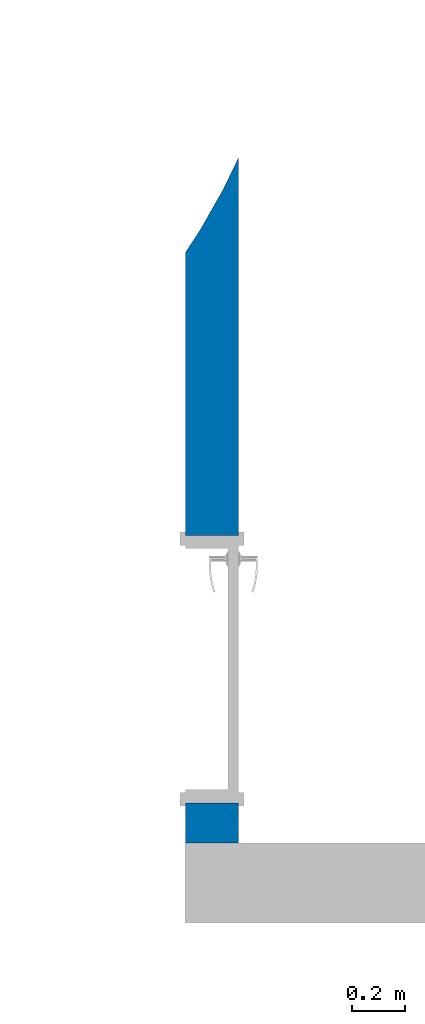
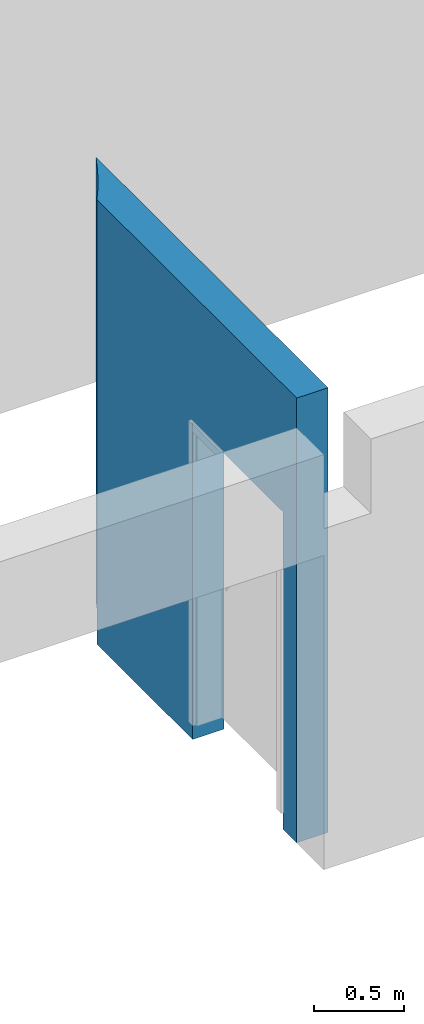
# One storey, part 4 of 6: 1 wall, 1 opening.
"""IFC4 building model written with IfcOpenShell, lengths in millimetres."""

from ifc_helpers import new_model, entity, si_unit, converted_unit, derived_unit, direction, frame, origin_with_axes, place, context, subcontext, project, spatial, polygons, material, constituent, constituent_set, type_object, element, save


model = new_model("IFC4")

# Units and contexts
model_context = context("Model", 3, precision=0.01, world=origin_with_axes(), true_north=direction((0.0, 1.0)))
body_context = subcontext(model_context, "Body", "Model", "MODEL_VIEW")
ifc_project = project(units=[si_unit("LENGTHUNIT", "METRE", prefix="MILLI"), si_unit("AREAUNIT", "SQUARE_METRE"), si_unit("VOLUMEUNIT", "CUBIC_METRE"), converted_unit("PLANEANGLEUNIT", "DEGREE", entity("IfcPlaneAngleMeasure", 0.0174532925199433), si_unit("PLANEANGLEUNIT", "RADIAN"), dimensions=[0, 0, 0, 0, 0, 0, 0]), converted_unit("TIMEUNIT", "Year", entity("IfcTimeMeasure", 31557600.0), si_unit("TIMEUNIT", "SECOND"), dimensions=[0, 0, 1, 0, 0, 0, 0]), si_unit("MASSUNIT", "GRAM", prefix="KILO"), si_unit("THERMODYNAMICTEMPERATUREUNIT", "DEGREE_CELSIUS"), si_unit("LUMINOUSINTENSITYUNIT", "LUMEN"), si_unit("ENERGYUNIT", "JOULE", prefix="MEGA"), derived_unit("THERMALCONDUCTANCEUNIT", [(si_unit("POWERUNIT", "WATT"), 1), (si_unit("LENGTHUNIT", "METRE"), -1), (si_unit("THERMODYNAMICTEMPERATUREUNIT", "KELVIN"), -1)]), derived_unit("SPECIFICHEATCAPACITYUNIT", [(si_unit("ENERGYUNIT", "JOULE"), 1), (si_unit("MASSUNIT", "GRAM", prefix="KILO"), -1), (si_unit("THERMODYNAMICTEMPERATUREUNIT", "KELVIN"), -1)]), derived_unit("MASSDENSITYUNIT", [(si_unit("MASSUNIT", "GRAM", prefix="KILO"), 1), (si_unit("VOLUMEUNIT", "CUBIC_METRE"), -1)])], contexts=[model_context])

# Site, building, storey
site_placement = place(None, origin_with_axes())
site = spatial("IfcSite", under=ifc_project, at=site_placement, Name="Exteriér", CompositionType="ELEMENT")
building_placement = place(site_placement, origin_with_axes())
building = spatial("IfcBuilding", under=site, at=building_placement, Name="Univerzitní lezecké centrum", CompositionType="ELEMENT")
storey_placement = place(building_placement, frame((0.0, 0.0, 6400.0), z_axis=(0.0, 0.0, 1.0), x_axis=(1.0, 0.0, 0.0)))
storey = spatial("IfcBuildingStorey", under=building, at=storey_placement, Name="3.NP", CompositionType="ELEMENT", Elevation=6400.0)

# Wall, opening
ifc_material = material(Name="Beton vyztužený - vnitřní svislé kce")
ifc_constituent = constituent(ifc_material, Name="Beton vyztužený - vnitřní svislé kce")
ifc_constituent_set = constituent_set(constituents=[ifc_constituent], Name="!Vnitřní betonová stěna 200 mm")
wall_type = type_object("IfcWallType", Name="!Vnitřní betonová stěna 200 mm 200", PredefinedType="NOTDEFINED")
wall_placement = place(storey_placement, frame((4699.951161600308, 2610.480756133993, -120.000000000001), z_axis=(0.0, 0.0, 1.0), x_axis=(0.0, -1.0, 0.0)))
wall = element("IfcWall", 1, at=wall_placement, inside=storey, type_object=wall_type, material=ifc_constituent_set, Name="St05", PredefinedType="NOTDEFINED", context=body_context, shape_type="Tessellation", body=[
    polygons([(1460.483303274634, 200.0000000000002, 120.000000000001), (1460.483379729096, 199.9999078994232, 0.4999999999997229), (1460.483379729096, 199.9999078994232, 0.0), (45.87353342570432, 199.9999999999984, 0.0), (45.87353342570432, 199.9999999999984, 3000.000000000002), (2610.48075613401, 199.9999999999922, 3000.000000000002), (2610.48075613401, 199.9999999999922, 0.0), (2460.483379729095, 199.9999078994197, 0.0), (2460.483379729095, 199.9999078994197, 0.4999999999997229), (2460.483303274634, 199.9999999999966, 120.000000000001), (2460.483303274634, 199.9999999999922, 2140.0), (1460.483303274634, 199.9999999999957, 2140.0), (1460.483303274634, 0.0, 120.000000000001), (1460.483379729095, -9.210057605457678e-05, 0.4999999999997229), (1460.483379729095, -9.210057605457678e-05, 0.0), (402.9603332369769, 0.0, 0.0), (313.5362180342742, 58.31581600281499, 0.0), (164.3026651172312, 142.6555059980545, 0.0), (87.16153950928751, 180.0079610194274, 0.0), (87.16153950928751, 180.0079610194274, 3000.000000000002), (313.5362180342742, 58.31581600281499, 3000.000000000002), (402.960333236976, 0.0, 3000.000000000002), (2610.480756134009, 0.0, 3000.000000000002), (164.3026651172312, 142.6555059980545, 3000.000000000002), (2610.480756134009, 0.0, 0.0), (2460.483379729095, -9.210057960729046e-05, 0.0), (2460.483379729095, -9.210057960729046e-05, 0.4999999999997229), (2460.483303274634, 0.0, 120.000000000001), (2460.483303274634, 0.0, 2140.0), (1460.483303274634, 0.0, 2140.0)], [[[1, 2, 3, 4, 5, 6, 7, 8, 9, 10, 11, 12]], [[13, 14, 2, 1]], [[15, 3, 2, 14]], [[4, 3, 15, 16, 17, 18, 19]], [[5, 4, 19, 20]], [[21, 22, 23, 6, 5, 20, 24]], [[6, 23, 25, 7]], [[25, 26, 8, 7]], [[26, 27, 9, 8]], [[10, 9, 27, 28]], [[28, 29, 11, 10]], [[29, 30, 12, 11]], [[30, 13, 1, 12]], [[16, 15, 14, 13, 30, 29, 28, 27, 26, 25, 23, 22]], [[21, 17, 16, 22]], [[24, 18, 17, 21]], [[20, 19, 18, 24]]], closed=True),
])
opening_placement = place(wall_placement, frame((1960.483303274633, 0.0, 120.000000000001), z_axis=(0.0, 0.0, 1.0), x_axis=(1.0, 0.0, 0.0)))
element("IfcOpeningElement", 2, at=opening_placement, cuts=wall, Name="D15", context=body_context, identifier="Reference", shape_type="Tessellation", body=[
    polygons([(-499.9999999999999, 0.0, 0.0), (-499.9999999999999, 0.0, 2020.0), (-499.9999999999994, 199.9999999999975, 2020.0), (-499.9999999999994, 199.9999999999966, 0.0), (500.0, 0.0, 2020.0), (-511.9999999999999, 0.0, 0.0), (-511.9999999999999, 0.0, 2032.0), (512.0, 0.0, 2032.0), (512.0, 0.0, 0.0), (500.0, 0.0, 0.0), (500.0000000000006, 199.9999999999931, 2020.0), (500.0000000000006, 199.9999999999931, 0.0), (512.0000000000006, 199.9999999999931, 0.0), (512.0000000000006, 199.9999999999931, 2032.0), (-511.9999999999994, 199.9999999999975, 2032.0), (-511.9999999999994, 199.9999999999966, 0.0), (-499.9999999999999, -1.000000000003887, 0.0), (-499.9999999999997, 201.0000000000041, 0.0), (500.0000000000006, 201.0000000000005, 0.0), (500.0, -1.000000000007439, 0.0), (-511.9999999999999, -1.000000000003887, 0.0), (-511.9999999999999, -1.000000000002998, 2032.0), (512.0, -1.000000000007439, 2032.0), (512.0, -1.000000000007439, 0.0), (512.0000000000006, 201.0000000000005, 0.0), (512.0000000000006, 201.0000000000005, 2032.0), (-511.9999999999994, 201.0000000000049, 2032.0), (-511.9999999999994, 201.0000000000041, 0.0), (-499.9999999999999, -1.000000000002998, 2020.0), (500.0, -1.000000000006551, 2020.0)], [[[1, 2, 3, 4]], [[5, 2, 1, 6, 7, 8, 9, 10]], [[2, 5, 11, 3]], [[4, 3, 11, 12, 13, 14, 15, 16]], [[17, 1, 4, 18, 19, 12, 10, 20]], [[1, 17, 21, 6]], [[7, 6, 21, 22]], [[8, 7, 22, 23]], [[9, 8, 23, 24]], [[20, 10, 9, 24]], [[5, 10, 12, 11]], [[12, 19, 25, 13]], [[14, 13, 25, 26]], [[15, 14, 26, 27]], [[16, 15, 27, 28]], [[18, 4, 16, 28]], [[18, 28, 27, 26, 25, 19]], [[29, 17, 20, 30]], [[17, 29, 30, 20, 24, 23, 22, 21]]], closed=True),
])

save(model, "model.ifc")
